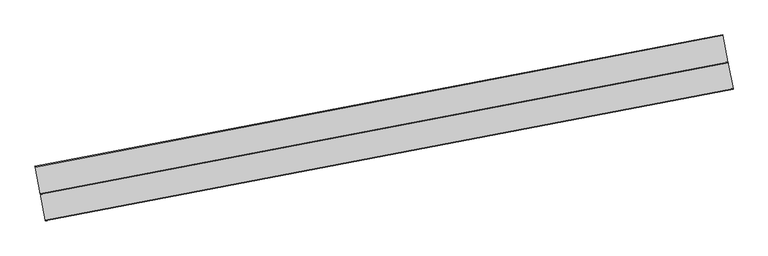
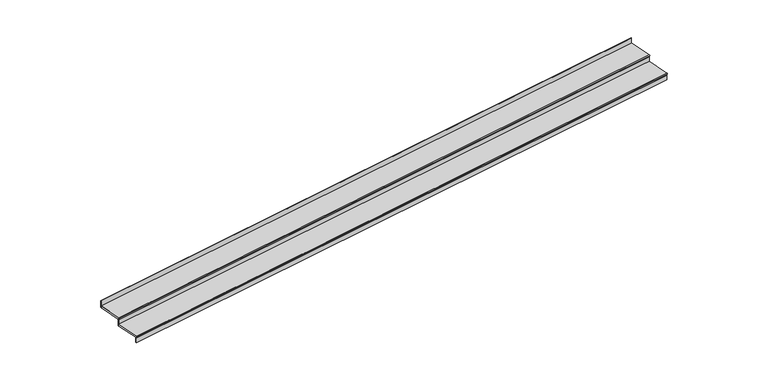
"""IFC4 building model written with IfcOpenShell, lengths in millimetres: stair flight geometry, Wood Steps with 50 mm Tread 20 mm Nosing 13 mm Riser."""

from ifc_helpers import new_model, si_unit, point, frame, frame_2d, origin, place, context, project, spatial, polyline, circle_curve, trimmed, segment, composite_curve, outline, extrude, source, transform, mapped, element, save


def stair_flight_6865f296(model_context):
    return source(origin(), model_context, "Body", "SweptSolid", [
        extrude(outline(composite_curve([segment(polyline([(0.0, -598.410772), (0.0, 0.0), (50.0, 0.0), (50.0, -598.410772), (20.0, -598.410772)]), True, "CONTINUOUS"), segment(trimmed(circle_curve(frame_2d((10.0, -598.410772)), 10.0), [point((20.0, -598.410772))], [point((0.0, -598.410772))], False, "CARTESIAN"), True, "CONTINUOUS")], self_intersect=False)), frame((952372.9186565, -5725.3132314, 8579.2941176), z_axis=(0.9821988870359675, 0.18784394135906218, 0.0), x_axis=(0.0, 0.0, -1.0)), (0.0, 0.0, 1.0), 15334.1051768),
        extrude(outline(polyline([(967542.2410442, -3410.5533971), (967544.5890934, -3422.8308831), (952483.4480551, -6303.2496368), (952481.1000058, -6290.9721507), (967542.2410442, -3410.5533971)])), frame((0.0, 0.0, 8400.0), z_axis=(0.0, 0.0, 1.0), x_axis=(1.0, 0.0, 0.0)), (0.0, 0.0, 1.0), 129.2941176),
        extrude(outline(polyline([(967431.7116456, -2832.6169917), (967434.0596949, -2844.8944778), (952372.9186565, -5725.3132314), (952370.5706072, -5713.0357453), (967431.7116456, -2832.6169917)])), frame((0.0, 0.0, 8529.2941176), z_axis=(0.0, 0.0, 1.0), x_axis=(1.0, 0.0, 0.0)), (0.0, 0.0, 1.0), 179.2941176),
        extrude(outline(polyline([(967321.1822471, -2254.6805863), (967323.5302963, -2266.9580724), (952262.389258, -5147.376826), (952260.0412087, -5135.0993399), (967321.1822471, -2254.6805863)])), frame((0.0, 0.0, 8708.5882353), z_axis=(0.0, 0.0, 1.0), x_axis=(1.0, 0.0, 0.0)), (0.0, 0.0, 1.0), 179.2941176),
        extrude(outline(composite_curve([segment(polyline([(0.0, -598.410772), (0.0, 0.0), (50.0, 0.0), (50.0, -598.410772), (20.0, -598.410772)]), True, "CONTINUOUS"), segment(trimmed(circle_curve(frame_2d((10.0, -598.410772)), 10.0), [point((20.0, -598.410772))], [point((0.0, -598.410772))], False, "CARTESIAN"), True, "CONTINUOUS")], self_intersect=False)), frame((952262.389258, -5147.376826, 8758.5882353), z_axis=(0.9821988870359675, 0.18784394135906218, 0.0), x_axis=(0.0, 0.0, -1.0)), (0.0, 0.0, 1.0), 15334.1051768),
    ])


if __name__ == "__main__":
    model = new_model("IFC4")
    model_context = context("Model", 3, world=origin())
    ifc_project = project(units=[si_unit("LENGTHUNIT", "METRE", prefix="MILLI")], contexts=[model_context])
    site = spatial("IfcSite", under=ifc_project)
    building = spatial("IfcBuilding", under=site)
    placement = place(None, origin())
    stair_flight_shape = stair_flight_6865f296(model_context)
    element("IfcStairFlight", 1, ObjectType="Wood Steps with 50 mm Tread 20 mm Nosing 13 mm Riser", at=placement, inside=building, context=model_context, shape_type="MappedRepresentation", body=[
        mapped(stair_flight_shape, transform((0.0, 0.0, 0.0), x_axis=(1.0, 0.0, 0.0), y_axis=(0.0, 1.0, 0.0), z_axis=(0.0, 0.0, 1.0))),
    ])
    save(model, "model.ifc")
